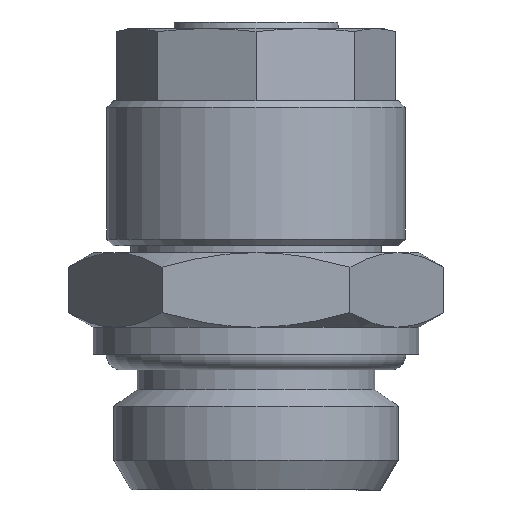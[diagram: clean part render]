
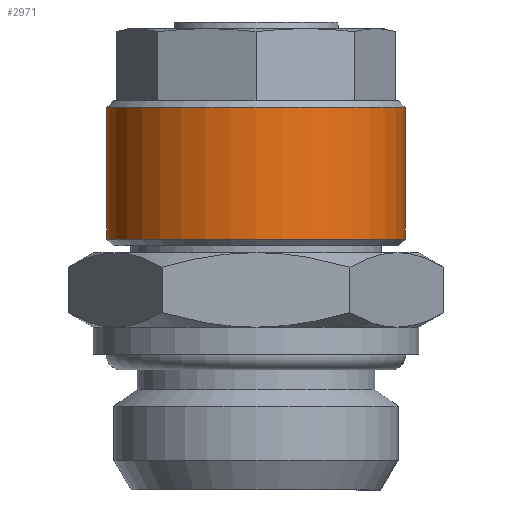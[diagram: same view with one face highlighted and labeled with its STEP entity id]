
A CAD part, front view. The second image highlights one B-rep face of the part: STEP entity #2971.
In plain terms, the highlighted cylindrical face has radius 11 mm (diameter 22 mm), a full revolution.
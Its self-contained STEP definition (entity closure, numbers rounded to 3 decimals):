
#1078=ORIENTED_EDGE('',*,*,#1338,.F.);
#1079=ORIENTED_EDGE('',*,*,#1339,.F.);
#1138=CIRCLE('',#2888,11.);
#1139=CIRCLE('',#2890,11.);
#1221=VERTEX_POINT('',#2710);
#1222=VERTEX_POINT('',#2713);
#1338=EDGE_CURVE('',#1221,#1221,#1138,.T.);
#1339=EDGE_CURVE('',#1222,#1222,#1139,.T.);
#1441=EDGE_LOOP('',(#1078));
#1442=EDGE_LOOP('',(#1079));
#1549=FACE_BOUND('',#1441,.T.);
#1550=FACE_BOUND('',#1442,.T.);
#1568=CYLINDRICAL_SURFACE('',#2889,11.);
#2424=DIRECTION('',(0.,1.,0.));
#2425=DIRECTION('',(0.,0.,11.));
#2426=DIRECTION('',(0.,1.,0.));
#2427=DIRECTION('',(1.,0.,0.));
#2428=DIRECTION('',(0.,-1.,0.));
#2429=DIRECTION('',(0.,0.,11.));
#2710=CARTESIAN_POINT('',(26.989,24.795,11.));
#2711=CARTESIAN_POINT('',(26.989,24.795,0.));
#2712=CARTESIAN_POINT('',(26.989,15.095,0.));
#2713=CARTESIAN_POINT('',(26.989,15.095,11.));
#2714=CARTESIAN_POINT('',(26.989,15.095,0.));
#2888=AXIS2_PLACEMENT_3D('',#2711,#2424,#2425);
#2889=AXIS2_PLACEMENT_3D('',#2712,#2426,#2427);
#2890=AXIS2_PLACEMENT_3D('',#2714,#2428,#2429);
#2971=ADVANCED_FACE('',(#1549,#1550),#1568,.T.);
